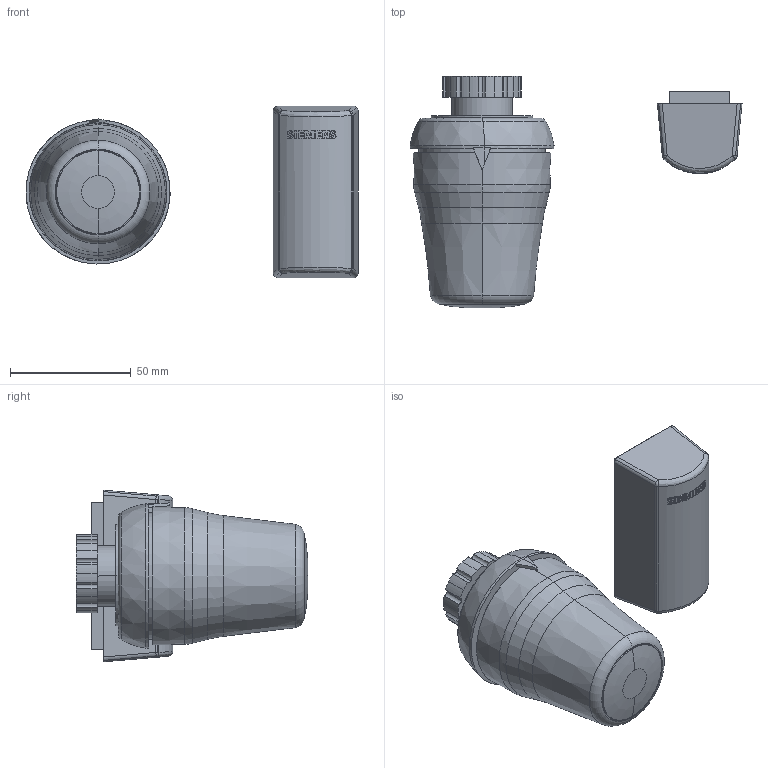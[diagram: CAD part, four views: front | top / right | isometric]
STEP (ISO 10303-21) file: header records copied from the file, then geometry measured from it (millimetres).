
FILE_DESCRIPTION((''),'2;1');
FILE_NAME('RTN71.dwg.stp','2006-10-04T11:31:36',(''),(''),'Mechanical Desktop 2006','Mechanical Desktop 2006',', , ');
FILE_SCHEMA(('AUTOMOTIVE_DESIGN { 1 2 10303 214 0 1 1 1 }'));
Length unit declared in the file: millimetre
Products named in the file (1): Product
Bounding box: 137.29 x 95.63 x 71 mm (x, y, z)
Volume: 237243.3 mm3; surface area: 48406.4 mm2
Topology: 16 solids, 16 shells, 256 faces, 641 edges, 420 vertices
Faces by surface type: cylinder 141, plane 91, bspline 10, cone 6, sphere 4, torus 4
Entity records: 8489 total; most frequent: CARTESIAN_POINT 2306, DIRECTION 1296, ORIENTED_EDGE 1282, EDGE_CURVE 641, AXIS2_PLACEMENT_3D 514, VERTEX_POINT 420, VECTOR 268, LINE 268
